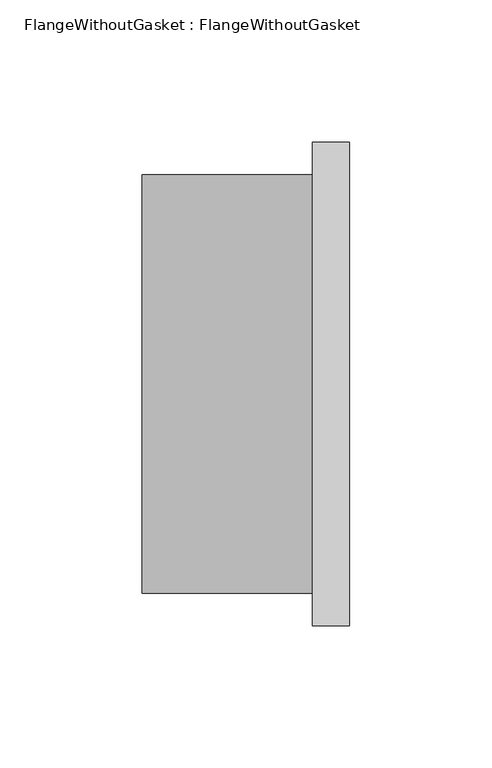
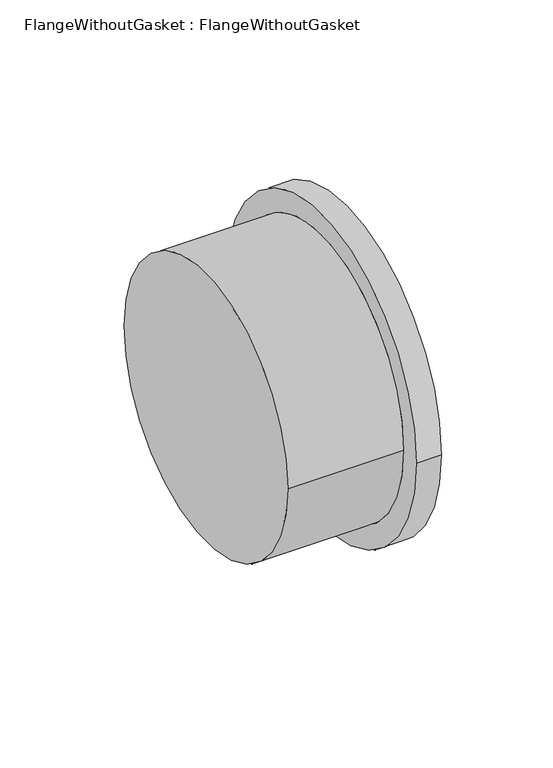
"""IFC4 building model written with IfcOpenShell, lengths in millimetres: pipe fitting geometry, FlangeWithoutGasket : FlangeWithoutGasket."""

from ifc_helpers import new_model, si_unit, frame, origin, place, context, project, spatial, circle_curve, source, transform, mapped, element, save
from ifc_brep_helpers import plane_surface, cylinder_surface, advanced_brep


def flangewithoutgasket_flangewithoutgasket_14cefbc4(model_context):
    return source(origin(), model_context, "Body", "AdvancedBrep", [
        advanced_brep(
        [(36.5, 85.0, 0.0), (36.5, -85.0, 0.0), (23.5, 85.0, 0.0), (23.5, -85.0, 0.0), (23.5, 73.5, 0.0), (23.5, -73.5, 0.0), (-36.5, -73.5, 0.0), (-36.5, 73.5, 0.0)],
        [
            (0, 1, circle_curve(frame((36.5, 0.0, 0.0), z_axis=(1.0, 0.0, 0.0), x_axis=(0.0, -1.0, 0.0)), 85.0)),
            (1, 0, circle_curve(frame((36.5, 0.0, 0.0), z_axis=(1.0, 0.0, 0.0), x_axis=(0.0, -1.0, 0.0)), 85.0)),
            (2, 3, circle_curve(frame((23.5, 0.0, 0.0), z_axis=(-1.0, 0.0, 0.0), x_axis=(0.0, -1.0, 0.0)), 85.0)),
            (3, 2, circle_curve(frame((23.5, 0.0, 0.0), z_axis=(-1.0, 0.0, 0.0), x_axis=(0.0, -1.0, 0.0)), 85.0)),
            (4, 5, circle_curve(frame((23.5, 0.0, 0.0), z_axis=(1.0, 0.0, 0.0), x_axis=(0.0, 1.0, 0.0)), 73.5)),
            (5, 4, circle_curve(frame((23.5, 0.0, 0.0), z_axis=(1.0, 0.0, 0.0), x_axis=(0.0, 1.0, 0.0)), 73.5)),
            (0, 2),
            (3, 1),
            (6, 7, circle_curve(frame((-36.5, 0.0, 0.0), z_axis=(-1.0, 0.0, 0.0), x_axis=(0.0, 1.0, 0.0)), 73.5)),
            (7, 6, circle_curve(frame((-36.5, 0.0, 0.0), z_axis=(-1.0, 0.0, 0.0), x_axis=(0.0, 1.0, 0.0)), 73.5)),
            (6, 5),
            (4, 7),
        ],
        [
            plane_surface(frame((36.5, 0.0, 0.0), z_axis=(1.0, 0.0, 0.0), x_axis=(0.0, 0.0, 1.0))),
            plane_surface(frame((23.5, 0.0, 0.0), z_axis=(-1.0, 0.0, 0.0), x_axis=(0.0, 0.0, 1.0))),
            cylinder_surface(frame((36.5, 0.0, 0.0), z_axis=(1.0, 0.0, 0.0), x_axis=(0.0, -1.0, 0.0)), 85.0),
            plane_surface(frame((-36.5, 0.0, 0.0), z_axis=(-1.0, 0.0, 0.0), x_axis=(0.0, 0.0, 1.0))),
            cylinder_surface(frame((-36.5, 0.0, 0.0), z_axis=(-1.0, 0.0, 0.0), x_axis=(0.0, 1.0, 0.0)), 73.5),
        ],
        [
            (0, [[1, 2]]),
            (1, [[3, 4], [5, 6]]),
            (2, [[-1, 7, -4, 8]]),
            (2, [[-2, -8, -3, -7]]),
            (3, [[9, 10]]),
            (4, [[-9, 11, -5, 12]]),
            (4, [[-10, -12, -6, -11]]),
        ],
    ),
    ])


if __name__ == "__main__":
    model = new_model("IFC4")
    model_context = context("Model", 3, world=origin())
    ifc_project = project(units=[si_unit("LENGTHUNIT", "METRE", prefix="MILLI")], contexts=[model_context])
    site = spatial("IfcSite", under=ifc_project)
    building = spatial("IfcBuilding", under=site)
    placement = place(None, origin())
    flangewithoutgasket_flangewithoutgasket_shape = flangewithoutgasket_flangewithoutgasket_14cefbc4(model_context)
    element("IfcPipeFitting", 1, ObjectType="FlangeWithoutGasket : FlangeWithoutGasket", at=placement, inside=building, context=model_context, shape_type="MappedRepresentation", body=[
        mapped(flangewithoutgasket_flangewithoutgasket_shape, transform((0.0, 0.0, 0.0), x_axis=(1.0, 0.0, 0.0), y_axis=(0.0, 1.0, 0.0), z_axis=(0.0, 0.0, 1.0))),
    ])
    save(model, "model.ifc")
